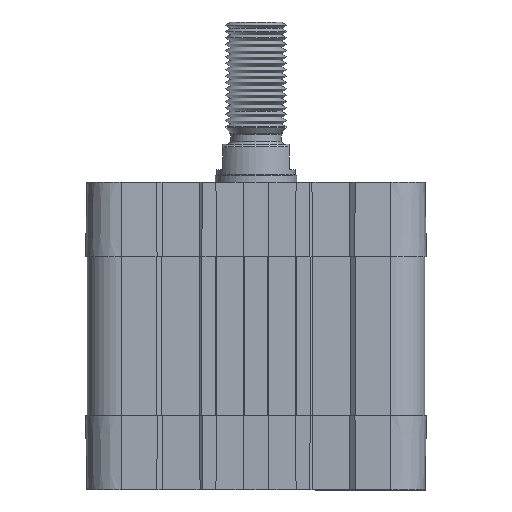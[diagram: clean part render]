
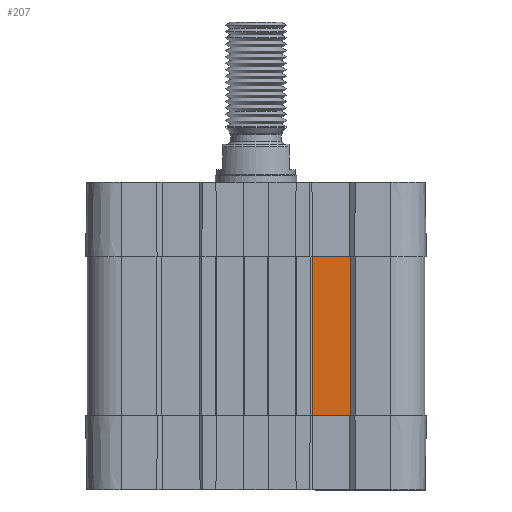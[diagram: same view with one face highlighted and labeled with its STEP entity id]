
A CAD part, front view. The second image highlights one B-rep face of the part: STEP entity #207.
In plain terms, the highlighted planar face has unit normal (0, -1, 0).
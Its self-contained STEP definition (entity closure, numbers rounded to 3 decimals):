
#202 = EDGE_CURVE ( 'NONE', #203, #228, #4562, .T. ) ;
#203 = VERTEX_POINT ( 'NONE', #4555 ) ;
#207 = ADVANCED_FACE ( 'NONE', ( #4550 ), #4549, .T. ) ;
#208 = EDGE_LOOP ( 'NONE', ( #209, #212, #215, #272 ) ) ;
#209 = ORIENTED_EDGE ( 'NONE', *, *, #210, .F. ) ;
#210 = EDGE_CURVE ( 'NONE', #211, #228, #4547, .T. ) ;
#211 = VERTEX_POINT ( 'NONE', #4603 ) ;
#212 = ORIENTED_EDGE ( 'NONE', *, *, #213, .F. ) ;
#213 = EDGE_CURVE ( 'NONE', #214, #211, #4602, .T. ) ;
#214 = VERTEX_POINT ( 'NONE', #4598 ) ;
#215 = ORIENTED_EDGE ( 'NONE', *, *, #271, .T. ) ;
#228 = VERTEX_POINT ( 'NONE', #4636 ) ;
#271 = EDGE_CURVE ( 'NONE', #214, #203, #4681, .T. ) ;
#272 = ORIENTED_EDGE ( 'NONE', *, *, #202, .T. ) ;
#4544 = DIRECTION ( 'NONE',  ( 0., 0., -1. ) ) ;
#4545 = DIRECTION ( 'NONE',  ( 0., -1., 0. ) ) ;
#4546 = CARTESIAN_POINT ( 'NONE',  ( 11.05, -32.2, -31.3 ) ) ;
#4547 = LINE ( 'NONE', #4606, #4605 ) ;
#4548 = AXIS2_PLACEMENT_3D ( 'NONE', #4546, #4545, #4544 ) ;
#4549 = PLANE ( 'NONE',  #4548 ) ;
#4550 = FACE_OUTER_BOUND ( 'NONE', #208, .T. ) ;
#4555 = CARTESIAN_POINT ( 'NONE',  ( 18.5, -32.2, -31.3 ) ) ;
#4556 = DIRECTION ( 'NONE',  ( 0., 0., 1. ) ) ;
#4557 = VECTOR ( 'NONE', #4556, 1000. ) ;
#4558 = CARTESIAN_POINT ( 'NONE',  ( 18.5, -32.2, -31.3 ) ) ;
#4562 = LINE ( 'NONE', #4558, #4557 ) ;
#4598 = CARTESIAN_POINT ( 'NONE',  ( 11.05, -32.2, -31.3 ) ) ;
#4599 = DIRECTION ( 'NONE',  ( 0., 0., 1. ) ) ;
#4600 = VECTOR ( 'NONE', #4599, 1000. ) ;
#4601 = CARTESIAN_POINT ( 'NONE',  ( 11.05, -32.2, -31.3 ) ) ;
#4602 = LINE ( 'NONE', #4601, #4600 ) ;
#4603 = CARTESIAN_POINT ( 'NONE',  ( 11.05, -32.2, 0. ) ) ;
#4604 = DIRECTION ( 'NONE',  ( 1., 0., 0. ) ) ;
#4605 = VECTOR ( 'NONE', #4604, 1000. ) ;
#4606 = CARTESIAN_POINT ( 'NONE',  ( 11.05, -32.2, 0. ) ) ;
#4636 = CARTESIAN_POINT ( 'NONE',  ( 18.5, -32.2, 0. ) ) ;
#4678 = DIRECTION ( 'NONE',  ( 1., 0., 0. ) ) ;
#4679 = VECTOR ( 'NONE', #4678, 1000. ) ;
#4680 = CARTESIAN_POINT ( 'NONE',  ( 11.05, -32.2, -31.3 ) ) ;
#4681 = LINE ( 'NONE', #4680, #4679 ) ;
